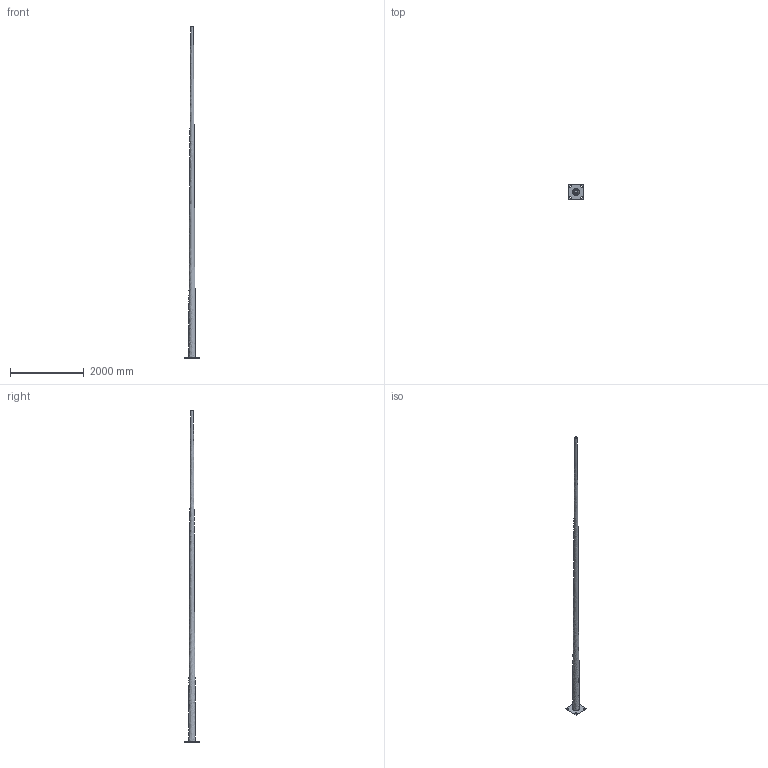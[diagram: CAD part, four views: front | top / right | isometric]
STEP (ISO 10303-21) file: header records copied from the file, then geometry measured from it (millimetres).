
FILE_DESCRIPTION(('FreeCAD Model'),'2;1');
FILE_NAME('Open CASCADE Shape Model','2024-12-18T15:04:11',(''),(''), 'Open CASCADE STEP processor 7.8','FreeCAD','Unknown');
FILE_SCHEMA(('AUTOMOTIVE_DESIGN { 1 0 10303 214 1 1 1 1 }'));
Length unit declared in the file: millimetre
Products named in the file (1): Body
Bounding box: 412 x 412 x 9000 mm (x, y, z)
Volume: 11670889.1 mm3; surface area: 7573035 mm2
Topology: 1 solids, 1 shells, 51 faces, 142 edges, 95 vertices
Faces by surface type: plane 32, cylinder 16, bspline 2, offset 1
Entity records: 3117 total; most frequent: CARTESIAN_POINT 1864, ORIENTED_EDGE 284, DIRECTION 198, EDGE_CURVE 142, VERTEX_POINT 95, LINE 68, VECTOR 68, AXIS2_PLACEMENT_3D 65
